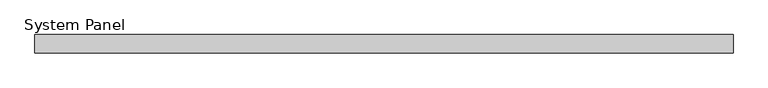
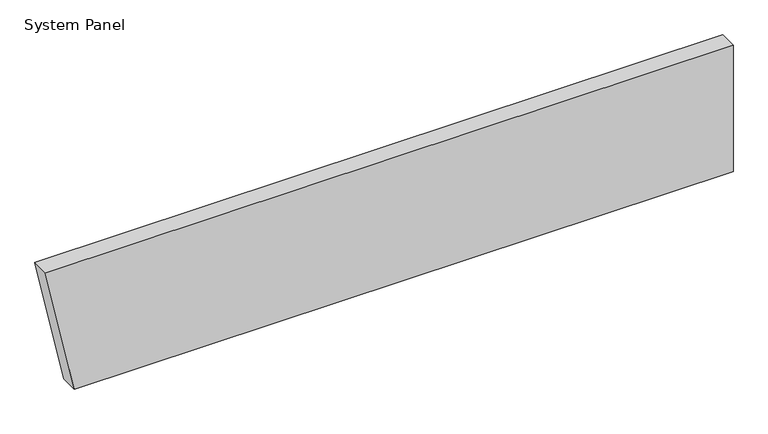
"""IFC4 building model written with IfcOpenShell, lengths in millimetres: plate geometry, System Panel : MetecnoPanel 150mm Horizontal - Plain Astro - PIR."""

from ifc_helpers import new_model, si_unit, frame, origin, place, context, project, spatial, polyline, outline, extrude, source, transform, mapped, element, save


def system_panel_9ec27122(model_context):
    return source(origin(), model_context, "Body", "SweptSolid", [
        extrude(outline(polyline([(0.0, -2590.0), (0.0, 2829.1323567), (1100.0, 2829.1323567), (1100.0, -2829.1323567), (0.0, -2590.0)])), frame((0.0, -150.0, 0.0), z_axis=(0.0, 1.0, 0.0), x_axis=(0.0, 0.0, 1.0)), (0.0, 0.0, 1.0), 150.0),
    ])


if __name__ == "__main__":
    model = new_model("IFC4")
    model_context = context("Model", 3, world=origin())
    ifc_project = project(units=[si_unit("LENGTHUNIT", "METRE", prefix="MILLI")], contexts=[model_context])
    site = spatial("IfcSite", under=ifc_project)
    building = spatial("IfcBuilding", under=site)
    placement = place(None, origin())
    system_panel_shape = system_panel_9ec27122(model_context)
    element("IfcPlate", 1, ObjectType="System Panel : MetecnoPanel 150mm Horizontal - Plain Astro - PIR", at=placement, inside=building, context=model_context, shape_type="MappedRepresentation", body=[
        mapped(system_panel_shape, transform((0.0, 0.0, 0.0), x_axis=(1.0, 0.0, 0.0), y_axis=(0.0, 1.0, 0.0), z_axis=(0.0, 0.0, 1.0))),
    ])
    save(model, "model.ifc")
